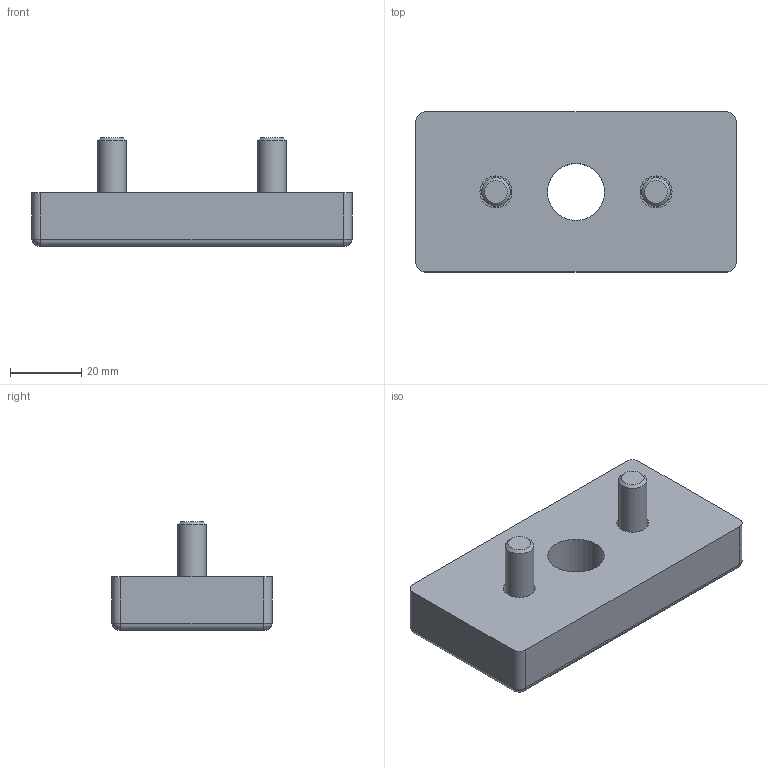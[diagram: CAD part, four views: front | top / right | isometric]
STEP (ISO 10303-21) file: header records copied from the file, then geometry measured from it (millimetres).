
FILE_DESCRIPTION((''),'2;1');
FILE_NAME('C:\Documents and Settings\Administrator\My Documents\Andys Backup Data\ANDY''S INVENTOR\INVENTOR LIBRARIES\MINITEC INVENTOR LIBRARIES\FEET WHEELS FLOOR FASTENING SUPPORTS\A PACKED FILES\STEP FILES\21.1040 BASE PLATE 45X90 M16.stp','2010-06-25T16:21:07',('Administrator'),(''),'Autodesk Inventor 2009','Autodesk Inventor 2009','');
FILE_SCHEMA(('AUTOMOTIVE_DESIGN { 1 0 10303 214 1 1 1 1 }'));
Length unit declared in the file: millimetre
Products named in the file (3): 21.1040 BASE PLATE 45X90 M16; 21.1204  M8 x 25
Assembly tree (3 placements, depth 2):
  21.1040 BASE PLATE 45X90 M16
    21.1040 BASE PLATE 45X90 M16
    21.1204  M8 x 25  x2
Bounding box: 90 x 45 x 30.5 mm (x, y, z)
Volume: 57898.7 mm3; surface area: 15284.5 mm2
Topology: 3 solids, 3 shells, 53 faces, 115 edges, 72 vertices
Faces by surface type: plane 24, cylinder 15, bspline 8, cone 4, torus 2
Full cylindrical faces by diameter (mm): 8 x2, 9 x2, 13 x2, 16 x1
Entity records: 1297 total; most frequent: CARTESIAN_POINT 399, DIRECTION 178, ORIENTED_EDGE 148, EDGE_CURVE 74, AXIS2_PLACEMENT_3D 73, EDGE_LOOP 58, VERTEX_POINT 52, FACE_OUTER_BOUND 39
